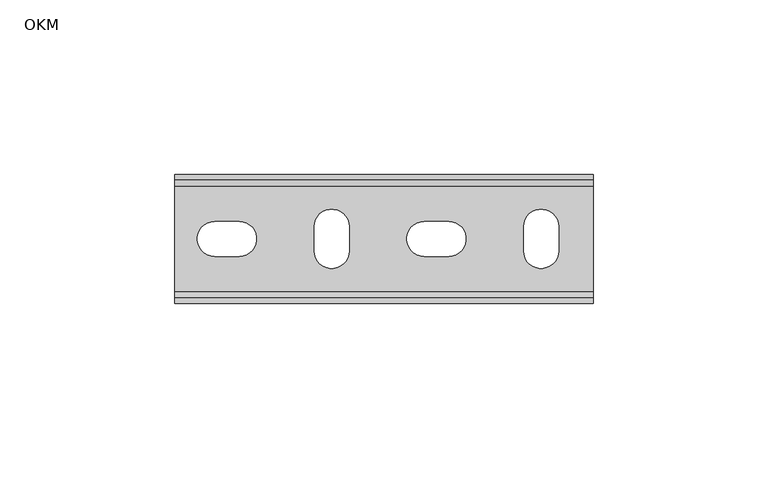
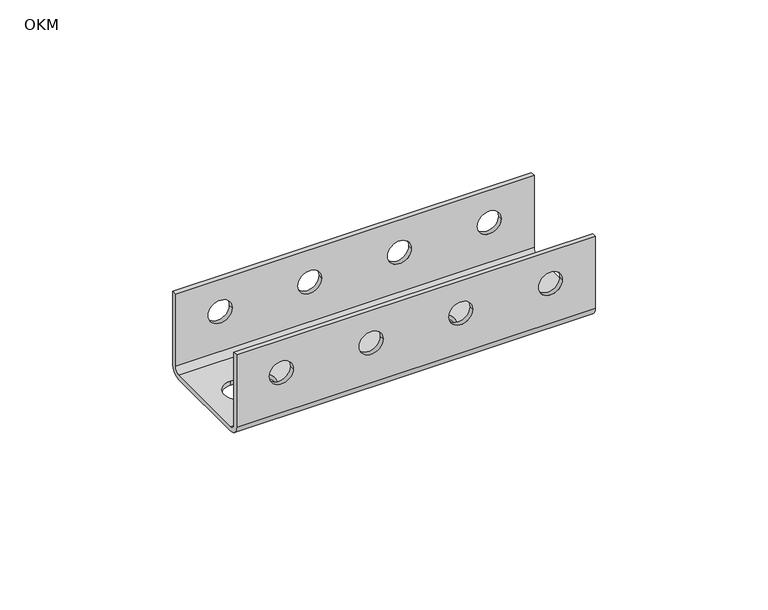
"""IFC4 building model written with IfcOpenShell, lengths in millimetres: proxy geometry, КМ Профиль_Опоры для консолей ОКМ, ОКВ : OKM."""

from ifc_helpers import new_model, si_unit, frame, origin, place, context, project, spatial, polyline, circle_curve, source, transform, mapped, element, save
from ifc_brep_helpers import plane_surface, cylinder_surface, revolved_surface, advanced_brep


def okm_523b57e4(model_context):
    return source(origin(), model_context, "Body", "AdvancedBrep", [
        advanced_brep(
        [(0.0, 15.0, 0.0), (0.0, -15.0, 0.0), (0.0, -18.5, 3.5), (0.0, -18.5, 29.0), (0.0, -17.0, 29.0), (0.0, -17.0, 3.5), (0.0, -15.0, 1.5), (0.0, 15.0, 1.5), (0.0, 17.0, 3.5), (0.0, 17.0, 29.0), (0.0, 18.5, 29.0), (0.0, 18.5, 3.5), (120.0, -15.0, 0.0), (120.0, 15.0, 0.0), (120.0, 18.5, 3.5), (120.0, 18.5, 29.0), (120.0, 17.0, 29.0), (120.0, 17.0, 3.5), (120.0, 15.0, 1.5), (120.0, -15.0, 1.5), (120.0, -17.0, 3.5), (120.0, -17.0, 29.0), (120.0, -18.5, 29.0), (120.0, -18.5, 3.5), (71.5, -5.0, 0.0), (78.5, -5.0, 0.0), (78.5, 5.0, 0.0), (71.5, 5.0, 0.0), (100.0, 3.5, 0.0), (100.0, -3.5, 0.0), (110.0, -3.5, 0.0), (110.0, 3.5, 0.0), (40.0, 3.5, 0.0), (40.0, -3.5, 0.0), (50.0, -3.5, 0.0), (50.0, 3.5, 0.0), (11.5, -5.0, 0.0), (18.5, -5.0, 0.0), (18.5, 5.0, 0.0), (11.5, 5.0, 0.0), (49.0, -17.0, 17.5), (41.0, -17.0, 17.5), (79.0, -17.0, 17.5), (71.0, -17.0, 17.5), (109.0, -17.0, 17.5), (101.0, -17.0, 17.5), (19.0, -17.0, 17.5), (11.0, -17.0, 17.5), (41.0, -18.5, 17.5), (49.0, -18.5, 17.5), (71.0, -18.5, 17.5), (79.0, -18.5, 17.5), (101.0, -18.5, 17.5), (109.0, -18.5, 17.5), (11.0, -18.5, 17.5), (19.0, -18.5, 17.5), (78.5, -5.0, 1.5), (71.5, -5.0, 1.5), (71.5, 5.0, 1.5), (78.5, 5.0, 1.5), (100.0, -3.5, 1.5), (100.0, 3.5, 1.5), (110.0, 3.5, 1.5), (110.0, -3.5, 1.5), (40.0, -3.5, 1.5), (40.0, 3.5, 1.5), (50.0, 3.5, 1.5), (50.0, -3.5, 1.5), (18.5, -5.0, 1.5), (11.5, -5.0, 1.5), (11.5, 5.0, 1.5), (18.5, 5.0, 1.5), (49.0, 18.5, 17.5), (41.0, 18.5, 17.5), (79.0, 18.5, 17.5), (71.0, 18.5, 17.5), (109.0, 18.5, 17.5), (101.0, 18.5, 17.5), (19.0, 18.5, 17.5), (11.0, 18.5, 17.5), (41.0, 17.0, 17.5), (49.0, 17.0, 17.5), (71.0, 17.0, 17.5), (79.0, 17.0, 17.5), (101.0, 17.0, 17.5), (109.0, 17.0, 17.5), (11.0, 17.0, 17.5), (19.0, 17.0, 17.5)],
        [
            (0, 1),
            (1, 2, circle_curve(frame((0.0, -15.0, 3.5), z_axis=(-1.0, 0.0, 0.0), x_axis=(0.0, 1.0, 0.0)), 3.5)),
            (2, 3),
            (3, 4),
            (4, 5),
            (5, 6, circle_curve(frame((0.0, -15.0, 3.5), z_axis=(1.0, 0.0, 0.0), x_axis=(0.0, 1.0, 0.0)), 2.0)),
            (6, 7),
            (7, 8, circle_curve(frame((0.0, 15.0, 3.5), z_axis=(1.0, 0.0, 0.0), x_axis=(0.0, 1.0, 0.0)), 2.0)),
            (8, 9),
            (9, 10),
            (10, 11),
            (11, 0, circle_curve(frame((0.0, 15.0, 3.5), z_axis=(-1.0, 0.0, 0.0), x_axis=(0.0, 1.0, 0.0)), 3.5)),
            (12, 13),
            (13, 14, circle_curve(frame((120.0, 15.0, 3.5), z_axis=(1.0, 0.0, 0.0), x_axis=(0.0, 1.0, 0.0)), 3.5)),
            (14, 15),
            (15, 16),
            (16, 17),
            (17, 18, circle_curve(frame((120.0, 15.0, 3.5), z_axis=(-1.0, 0.0, 0.0), x_axis=(0.0, 1.0, 0.0)), 2.0)),
            (18, 19),
            (19, 20, circle_curve(frame((120.0, -15.0, 3.5), z_axis=(-1.0, 0.0, 0.0), x_axis=(0.0, 1.0, 0.0)), 2.0)),
            (20, 21),
            (21, 22),
            (22, 23),
            (23, 12, circle_curve(frame((120.0, -15.0, 3.5), z_axis=(1.0, 0.0, 0.0), x_axis=(0.0, 1.0, 0.0)), 3.5)),
            (0, 13),
            (12, 1),
            (24, 25),
            (25, 26, circle_curve(frame((78.5, 0.0, 0.0), z_axis=(0.0, 0.0, 1.0), x_axis=(1.0, 0.0, 0.0)), 5.0)),
            (26, 27),
            (27, 24, circle_curve(frame((71.5, 0.0, 0.0), z_axis=(0.0, 0.0, 1.0), x_axis=(1.0, 0.0, 0.0)), 5.0)),
            (28, 29),
            (29, 30, circle_curve(frame((105.0, -3.5, 0.0), z_axis=(0.0, 0.0, 1.0), x_axis=(0.0, -1.0, 0.0)), 5.0)),
            (30, 31),
            (31, 28, circle_curve(frame((105.0, 3.5, 0.0), z_axis=(0.0, 0.0, 1.0), x_axis=(0.0, -1.0, 0.0)), 5.0)),
            (32, 33),
            (33, 34, circle_curve(frame((45.0, -3.5, 0.0), z_axis=(0.0, 0.0, 1.0), x_axis=(0.0, -1.0, 0.0)), 5.0)),
            (34, 35),
            (35, 32, circle_curve(frame((45.0, 3.5, 0.0), z_axis=(0.0, 0.0, 1.0), x_axis=(0.0, -1.0, 0.0)), 5.0)),
            (36, 37),
            (37, 38, circle_curve(frame((18.5, 0.0, 0.0), z_axis=(0.0, 0.0, 1.0), x_axis=(1.0, 0.0, 0.0)), 5.0)),
            (38, 39),
            (39, 36, circle_curve(frame((11.5, 0.0, 0.0), z_axis=(0.0, 0.0, 1.0), x_axis=(1.0, 0.0, 0.0)), 5.0)),
            (4, 21),
            (20, 5),
            (40, 41, circle_curve(frame((45.0, -17.0, 17.5), z_axis=(0.0, -1.0, 0.0), x_axis=(1.0, 0.0, 0.0)), 4.0)),
            (41, 40, circle_curve(frame((45.0, -17.0, 17.5), z_axis=(0.0, -1.0, 0.0), x_axis=(1.0, 0.0, 0.0)), 4.0)),
            (42, 43, circle_curve(frame((75.0, -17.0, 17.5), z_axis=(0.0, -1.0, 0.0), x_axis=(1.0, 0.0, 0.0)), 4.0)),
            (43, 42, circle_curve(frame((75.0, -17.0, 17.5), z_axis=(0.0, -1.0, 0.0), x_axis=(1.0, 0.0, 0.0)), 4.0)),
            (44, 45, circle_curve(frame((105.0, -17.0, 17.5), z_axis=(0.0, -1.0, 0.0), x_axis=(1.0, 0.0, 0.0)), 4.0)),
            (45, 44, circle_curve(frame((105.0, -17.0, 17.5), z_axis=(0.0, -1.0, 0.0), x_axis=(1.0, 0.0, 0.0)), 4.0)),
            (46, 47, circle_curve(frame((15.0, -17.0, 17.5), z_axis=(0.0, -1.0, 0.0), x_axis=(1.0, 0.0, 0.0)), 4.0)),
            (47, 46, circle_curve(frame((15.0, -17.0, 17.5), z_axis=(0.0, -1.0, 0.0), x_axis=(1.0, 0.0, 0.0)), 4.0)),
            (3, 22),
            (2, 23),
            (48, 49, circle_curve(frame((45.0, -18.5, 17.5), z_axis=(0.0, 1.0, 0.0), x_axis=(1.0, 0.0, 0.0)), 4.0)),
            (49, 48, circle_curve(frame((45.0, -18.5, 17.5), z_axis=(0.0, 1.0, 0.0), x_axis=(1.0, 0.0, 0.0)), 4.0)),
            (50, 51, circle_curve(frame((75.0, -18.5, 17.5), z_axis=(0.0, 1.0, 0.0), x_axis=(1.0, 0.0, 0.0)), 4.0)),
            (51, 50, circle_curve(frame((75.0, -18.5, 17.5), z_axis=(0.0, 1.0, 0.0), x_axis=(1.0, 0.0, 0.0)), 4.0)),
            (52, 53, circle_curve(frame((105.0, -18.5, 17.5), z_axis=(0.0, 1.0, 0.0), x_axis=(1.0, 0.0, 0.0)), 4.0)),
            (53, 52, circle_curve(frame((105.0, -18.5, 17.5), z_axis=(0.0, 1.0, 0.0), x_axis=(1.0, 0.0, 0.0)), 4.0)),
            (54, 55, circle_curve(frame((15.0, -18.5, 17.5), z_axis=(0.0, 1.0, 0.0), x_axis=(1.0, 0.0, 0.0)), 4.0)),
            (55, 54, circle_curve(frame((15.0, -18.5, 17.5), z_axis=(0.0, 1.0, 0.0), x_axis=(1.0, 0.0, 0.0)), 4.0)),
            (6, 19),
            (18, 7),
            (56, 57),
            (57, 58, circle_curve(frame((71.5, 0.0, 1.5), z_axis=(0.0, 0.0, -1.0), x_axis=(1.0, 0.0, 0.0)), 5.0)),
            (58, 59),
            (59, 56, circle_curve(frame((78.5, 0.0, 1.5), z_axis=(0.0, 0.0, -1.0), x_axis=(1.0, 0.0, 0.0)), 5.0)),
            (60, 61),
            (61, 62, circle_curve(frame((105.0, 3.5, 1.5), z_axis=(0.0, 0.0, -1.0), x_axis=(0.0, -1.0, 0.0)), 5.0)),
            (62, 63),
            (63, 60, circle_curve(frame((105.0, -3.5, 1.5), z_axis=(0.0, 0.0, -1.0), x_axis=(0.0, -1.0, 0.0)), 5.0)),
            (64, 65),
            (65, 66, circle_curve(frame((45.0, 3.5, 1.5), z_axis=(0.0, 0.0, -1.0), x_axis=(0.0, -1.0, 0.0)), 5.0)),
            (66, 67),
            (67, 64, circle_curve(frame((45.0, -3.5, 1.5), z_axis=(0.0, 0.0, -1.0), x_axis=(0.0, -1.0, 0.0)), 5.0)),
            (68, 69),
            (69, 70, circle_curve(frame((11.5, 0.0, 1.5), z_axis=(0.0, 0.0, -1.0), x_axis=(1.0, 0.0, 0.0)), 5.0)),
            (70, 71),
            (71, 68, circle_curve(frame((18.5, 0.0, 1.5), z_axis=(0.0, 0.0, -1.0), x_axis=(1.0, 0.0, 0.0)), 5.0)),
            (10, 15),
            (14, 11),
            (72, 73, circle_curve(frame((45.0, 18.5, 17.5), z_axis=(0.0, -1.0, 0.0), x_axis=(1.0, 0.0, 0.0)), 4.0)),
            (73, 72, circle_curve(frame((45.0, 18.5, 17.5), z_axis=(0.0, -1.0, 0.0), x_axis=(1.0, 0.0, 0.0)), 4.0)),
            (74, 75, circle_curve(frame((75.0, 18.5, 17.5), z_axis=(0.0, -1.0, 0.0), x_axis=(1.0, 0.0, 0.0)), 4.0)),
            (75, 74, circle_curve(frame((75.0, 18.5, 17.5), z_axis=(0.0, -1.0, 0.0), x_axis=(1.0, 0.0, 0.0)), 4.0)),
            (76, 77, circle_curve(frame((105.0, 18.5, 17.5), z_axis=(0.0, -1.0, 0.0), x_axis=(1.0, 0.0, 0.0)), 4.0)),
            (77, 76, circle_curve(frame((105.0, 18.5, 17.5), z_axis=(0.0, -1.0, 0.0), x_axis=(1.0, 0.0, 0.0)), 4.0)),
            (78, 79, circle_curve(frame((15.0, 18.5, 17.5), z_axis=(0.0, -1.0, 0.0), x_axis=(1.0, 0.0, 0.0)), 4.0)),
            (79, 78, circle_curve(frame((15.0, 18.5, 17.5), z_axis=(0.0, -1.0, 0.0), x_axis=(1.0, 0.0, 0.0)), 4.0)),
            (9, 16),
            (8, 17),
            (80, 81, circle_curve(frame((45.0, 17.0, 17.5), z_axis=(0.0, 1.0, 0.0), x_axis=(1.0, 0.0, 0.0)), 4.0)),
            (81, 80, circle_curve(frame((45.0, 17.0, 17.5), z_axis=(0.0, 1.0, 0.0), x_axis=(1.0, 0.0, 0.0)), 4.0)),
            (82, 83, circle_curve(frame((75.0, 17.0, 17.5), z_axis=(0.0, 1.0, 0.0), x_axis=(1.0, 0.0, 0.0)), 4.0)),
            (83, 82, circle_curve(frame((75.0, 17.0, 17.5), z_axis=(0.0, 1.0, 0.0), x_axis=(1.0, 0.0, 0.0)), 4.0)),
            (84, 85, circle_curve(frame((105.0, 17.0, 17.5), z_axis=(0.0, 1.0, 0.0), x_axis=(1.0, 0.0, 0.0)), 4.0)),
            (85, 84, circle_curve(frame((105.0, 17.0, 17.5), z_axis=(0.0, 1.0, 0.0), x_axis=(1.0, 0.0, 0.0)), 4.0)),
            (86, 87, circle_curve(frame((15.0, 17.0, 17.5), z_axis=(0.0, 1.0, 0.0), x_axis=(1.0, 0.0, 0.0)), 4.0)),
            (87, 86, circle_curve(frame((15.0, 17.0, 17.5), z_axis=(0.0, 1.0, 0.0), x_axis=(1.0, 0.0, 0.0)), 4.0)),
            (40, 49),
            (48, 41),
            (80, 73),
            (72, 81),
            (50, 43),
            (42, 51),
            (82, 75),
            (74, 83),
            (52, 45),
            (44, 53),
            (84, 77),
            (76, 85),
            (24, 57),
            (56, 25),
            (27, 58),
            (26, 59),
            (28, 61),
            (60, 29),
            (31, 62),
            (30, 63),
            (32, 65),
            (64, 33),
            (35, 66),
            (34, 67),
            (36, 69),
            (68, 37),
            (39, 70),
            (38, 71),
            (54, 47),
            (46, 55),
            (86, 79),
            (78, 87),
        ],
        [
            plane_surface(frame((0.0, 0.0, 0.0), z_axis=(-1.0, 0.0, 0.0), x_axis=(0.0, 0.0, 1.0))),
            plane_surface(frame((120.0, 0.0, 0.0), z_axis=(1.0, 0.0, 0.0), x_axis=(0.0, 0.0, 1.0))),
            plane_surface(frame((0.0, 15.0, 0.0), z_axis=(0.0, 0.0, -1.0), x_axis=(1.0, 0.0, 0.0))),
            plane_surface(frame((0.0, -17.0, 29.0), z_axis=(0.0, 1.0, 0.0), x_axis=(1.0, 0.0, 0.0))),
            plane_surface(frame((0.0, -18.5, 29.0), z_axis=(0.0, 0.0, 1.0), x_axis=(1.0, 0.0, 0.0))),
            plane_surface(frame((0.0, -18.5, 3.5), z_axis=(0.0, -1.0, 0.0), x_axis=(1.0, 0.0, 0.0))),
            plane_surface(frame((0.0, -15.0, 1.5), z_axis=(0.0, 0.0, 1.0), x_axis=(1.0, 0.0, 0.0))),
            plane_surface(frame((0.0, 18.5, 29.0), z_axis=(0.0, 1.0, 0.0), x_axis=(1.0, 0.0, 0.0))),
            plane_surface(frame((0.0, 17.0, 29.0), z_axis=(0.0, 0.0, 1.0), x_axis=(1.0, 0.0, 0.0))),
            plane_surface(frame((0.0, 17.0, 3.5), z_axis=(0.0, -1.0, 0.0), x_axis=(1.0, 0.0, 0.0))),
            cylinder_surface(frame((0.0, 15.0, 3.5), z_axis=(-1.0, 0.0, 0.0), x_axis=(0.0, 1.0, 0.0)), 3.5),
            cylinder_surface(frame((0.0, -15.0, 3.5), z_axis=(-1.0, 0.0, 0.0), x_axis=(0.0, 1.0, 0.0)), 3.5),
            revolved_surface(polyline([(120.0, -13.0, 3.5), (0.0, -13.0, 3.5)]), (0.0, -15.0, 3.5), (1.0, 0.0, 0.0)),
            revolved_surface(polyline([(120.0, 17.0, 3.5), (0.0, 17.0, 3.5)]), (0.0, 15.0, 3.5), (1.0, 0.0, 0.0)),
            revolved_surface(polyline([(49.0, -17.0, 17.5), (49.0, -18.5, 17.5)]), (45.0, -18.5, 17.5), (0.0, 1.0, 0.0)),
            revolved_surface(polyline([(49.0, 18.5, 17.5), (49.0, 17.0, 17.5)]), (45.0, -18.5, 17.5), (0.0, 1.0, 0.0)),
            revolved_surface(polyline([(79.0, -17.0, 17.5), (79.0, -18.5, 17.5)]), (75.0, -18.5, 17.5), (0.0, 1.0, 0.0)),
            revolved_surface(polyline([(79.0, 18.5, 17.5), (79.0, 17.0, 17.5)]), (75.0, -18.5, 17.5), (0.0, 1.0, 0.0)),
            revolved_surface(polyline([(109.0, -17.0, 17.5), (109.0, -18.5, 17.5)]), (105.0, -18.5, 17.5), (0.0, 1.0, 0.0)),
            revolved_surface(polyline([(109.0, 18.5, 17.5), (109.0, 17.0, 17.5)]), (105.0, -18.5, 17.5), (0.0, 1.0, 0.0)),
            plane_surface(frame((78.5, -5.0, 0.0), z_axis=(0.0, 1.0, 0.0), x_axis=(0.0, 0.0, 1.0))),
            revolved_surface(polyline([(76.5, 0.0, 0.0), (76.5, 0.0, 1.5)]), (71.5, 0.0, 1.5), (0.0, 0.0, -1.0)),
            plane_surface(frame((71.5, 5.0, 0.0), z_axis=(0.0, -1.0, 0.0), x_axis=(0.0, 0.0, 1.0))),
            revolved_surface(polyline([(83.5, 0.0, 0.0), (83.5, 0.0, 1.5)]), (78.5, 0.0, 1.5), (0.0, 0.0, -1.0)),
            plane_surface(frame((100.0, -3.5, 0.0), z_axis=(1.0, 0.0, 0.0), x_axis=(0.0, 0.0, 1.0))),
            revolved_surface(polyline([(105.0, -1.5, 0.0), (105.0, -1.5, 1.5)]), (105.0, 3.5, 1.5), (0.0, 0.0, -1.0)),
            plane_surface(frame((110.0, 3.5, 0.0), z_axis=(-1.0, 0.0, 0.0), x_axis=(0.0, 0.0, 1.0))),
            revolved_surface(polyline([(105.0, -8.5, 0.0), (105.0, -8.5, 1.5)]), (105.0, -3.5, 1.5), (0.0, 0.0, -1.0)),
            plane_surface(frame((40.0, -3.5, 0.0), z_axis=(1.0, 0.0, 0.0), x_axis=(0.0, 0.0, 1.0))),
            revolved_surface(polyline([(45.0, -1.5, 0.0), (45.0, -1.5, 1.5)]), (45.0, 3.5, 1.5), (0.0, 0.0, -1.0)),
            plane_surface(frame((50.0, 3.5, 0.0), z_axis=(-1.0, 0.0, 0.0), x_axis=(0.0, 0.0, 1.0))),
            revolved_surface(polyline([(45.0, -8.5, 0.0), (45.0, -8.5, 1.5)]), (45.0, -3.5, 1.5), (0.0, 0.0, -1.0)),
            plane_surface(frame((18.5, -5.0, 0.0), z_axis=(0.0, 1.0, 0.0), x_axis=(0.0, 0.0, 1.0))),
            revolved_surface(polyline([(16.5, 0.0, 0.0), (16.5, 0.0, 1.5)]), (11.5, 0.0, 1.5), (0.0, 0.0, -1.0)),
            plane_surface(frame((11.5, 5.0, 0.0), z_axis=(0.0, -1.0, 0.0), x_axis=(0.0, 0.0, 1.0))),
            revolved_surface(polyline([(23.5, 0.0, 0.0), (23.5, 0.0, 1.5)]), (18.5, 0.0, 1.5), (0.0, 0.0, -1.0)),
            revolved_surface(polyline([(19.0, -17.0, 17.5), (19.0, -18.5, 17.5)]), (15.0, -18.5, 17.5), (0.0, 1.0, 0.0)),
            revolved_surface(polyline([(19.0, 18.5, 17.5), (19.0, 17.0, 17.5)]), (15.0, -18.5, 17.5), (0.0, 1.0, 0.0)),
        ],
        [
            (0, [[1, 2, 3, 4, 5, 6, 7, 8, 9, 10, 11, 12]]),
            (1, [[13, 14, 15, 16, 17, 18, 19, 20, 21, 22, 23, 24]]),
            (2, [[-1, 25, -13, 26], [27, 28, 29, 30], [31, 32, 33, 34], [35, 36, 37, 38], [39, 40, 41, 42]]),
            (3, [[-5, 43, -21, 44], [45, 46], [47, 48], [49, 50], [51, 52]]),
            (4, [[-4, 53, -22, -43]]),
            (5, [[-3, 54, -23, -53], [55, 56], [57, 58], [59, 60], [61, 62]]),
            (6, [[-7, 63, -19, 64], [65, 66, 67, 68], [69, 70, 71, 72], [73, 74, 75, 76], [77, 78, 79, 80]]),
            (7, [[-11, 81, -15, 82], [83, 84], [85, 86], [87, 88], [89, 90]]),
            (8, [[-10, 91, -16, -81]]),
            (9, [[-9, 92, -17, -91], [93, 94], [95, 96], [97, 98], [99, 100]]),
            (10, [[-12, -82, -14, -25]]),
            (11, [[-2, -26, -24, -54]]),
            (12, [[-6, -44, -20, -63]]),
            (13, [[-8, -64, -18, -92]]),
            (14, [[101, -55, 102, -45]]),
            (15, [[103, -83, 104, -93]]),
            (14, [[-101, -46, -102, -56]]),
            (15, [[-103, -94, -104, -84]]),
            (16, [[105, -47, 106, -57]]),
            (17, [[107, -85, 108, -95]]),
            (16, [[-105, -58, -106, -48]]),
            (17, [[-107, -96, -108, -86]]),
            (18, [[109, -49, 110, -59]]),
            (19, [[111, -87, 112, -97]]),
            (18, [[-109, -60, -110, -50]]),
            (19, [[-111, -98, -112, -88]]),
            (20, [[113, -65, 114, -27]]),
            (21, [[-113, -30, 115, -66]]),
            (22, [[-115, -29, 116, -67]]),
            (23, [[-114, -68, -116, -28]]),
            (24, [[117, -69, 118, -31]]),
            (25, [[-117, -34, 119, -70]]),
            (26, [[-119, -33, 120, -71]]),
            (27, [[-118, -72, -120, -32]]),
            (28, [[121, -73, 122, -35]]),
            (29, [[-121, -38, 123, -74]]),
            (30, [[-123, -37, 124, -75]]),
            (31, [[-122, -76, -124, -36]]),
            (32, [[125, -77, 126, -39]]),
            (33, [[-125, -42, 127, -78]]),
            (34, [[-127, -41, 128, -79]]),
            (35, [[-126, -80, -128, -40]]),
            (36, [[129, -51, 130, -61]]),
            (37, [[131, -89, 132, -99]]),
            (36, [[-129, -62, -130, -52]]),
            (37, [[-131, -100, -132, -90]]),
        ],
    ),
    ])


if __name__ == "__main__":
    model = new_model("IFC4")
    model_context = context("Model", 3, world=origin())
    ifc_project = project(units=[si_unit("LENGTHUNIT", "METRE", prefix="MILLI")], contexts=[model_context])
    site = spatial("IfcSite", under=ifc_project)
    building = spatial("IfcBuilding", under=site)
    placement = place(None, origin())
    okm_shape = okm_523b57e4(model_context)
    element("IfcBuildingElementProxy", 1, Name="КМ Профиль_Опоры для консолей ОКМ, ОКВ : OKM", ObjectType="КМ Профиль_Опоры для консолей ОКМ, ОКВ : OKM", at=placement, inside=building, context=model_context, shape_type="MappedRepresentation", body=[
        mapped(okm_shape, transform((0.0, 0.0, 0.0), x_axis=(1.0, 0.0, 0.0), y_axis=(0.0, 1.0, 0.0), z_axis=(0.0, 0.0, 1.0))),
    ])
    save(model, "model.ifc")
